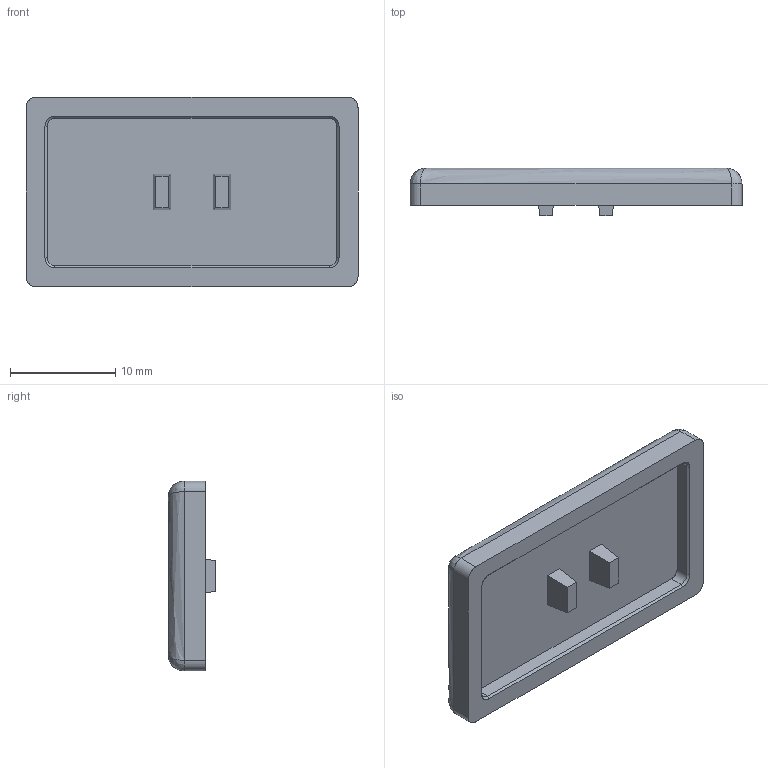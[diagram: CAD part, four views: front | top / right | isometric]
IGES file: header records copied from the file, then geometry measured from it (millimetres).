
Start section: SolidWorks IGES file using analytic representation for surfaces
Global section: file name: G:\byScottua\Keyboards\Kailh\Space.IGS; native system: SolidWorks 2018; preprocessor: SolidWorks 2018; author: PHFHXE; date: 200324.122156; units: millimetre
Bounding box: 31.5 x 4.5 x 18 mm (x, y, z)
Surface area: 1564.3 mm2 (no closed solid volume)
Topology: 0 solids, 0 shells, 45 faces, 304 edges, 300 vertices
Faces by surface type: bspline 29, revolution 16
